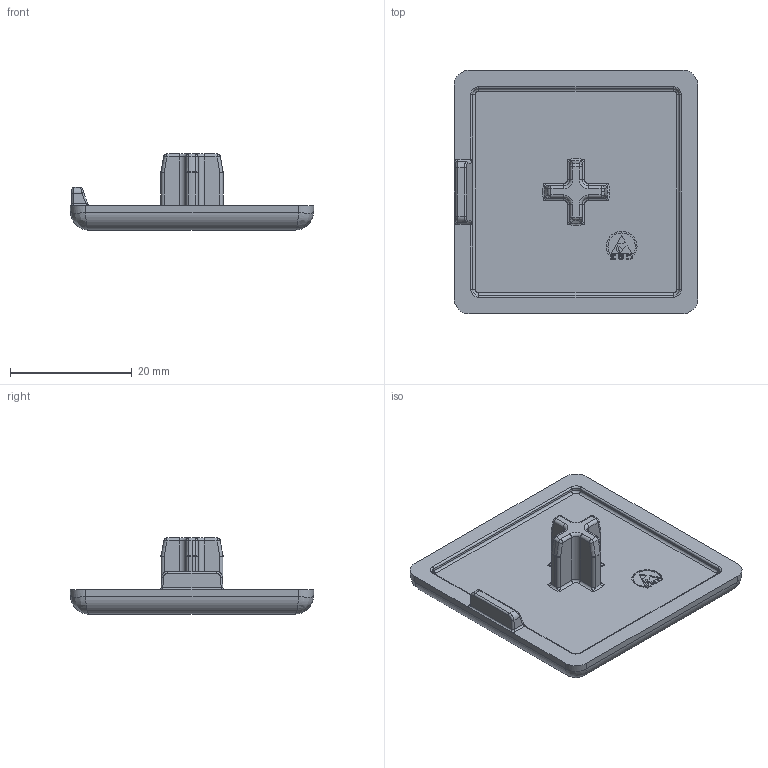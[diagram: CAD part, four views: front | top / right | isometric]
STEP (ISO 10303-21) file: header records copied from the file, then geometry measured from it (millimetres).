
FILE_DESCRIPTION (( 'STEP AP214' ), '1' );
FILE_NAME ('091046S03.STEP', '2021-08-25T11:14:56', ( '' ), ( '' ), 'SwSTEP 2.0', 'SolidWorks 2021', '' );
FILE_SCHEMA (( 'AUTOMOTIVE_DESIGN' ));
Length unit declared in the file: millimetre
Products named in the file (1): 091046S03
Bounding box: 40 x 40 x 12.5 mm (x, y, z)
Volume: 5313.7 mm3; surface area: 4087.2 mm2
Topology: 1 solids, 1 shells, 274 faces, 681 edges, 396 vertices
Faces by surface type: plane 119, cylinder 71, bspline 38, torus 25, sphere 16, cone 5
Entity records: 8698 total; most frequent: CARTESIAN_POINT 2548, ORIENTED_EDGE 1322, DIRECTION 1228, EDGE_CURVE 661, AXIS2_PLACEMENT_3D 414, VECTOR 400, LINE 400, VERTEX_POINT 396
